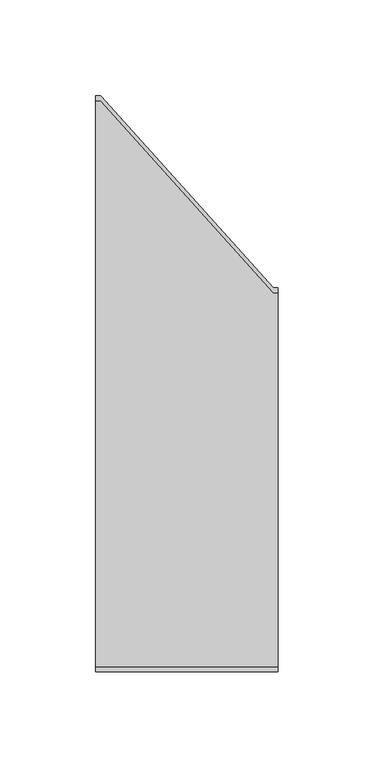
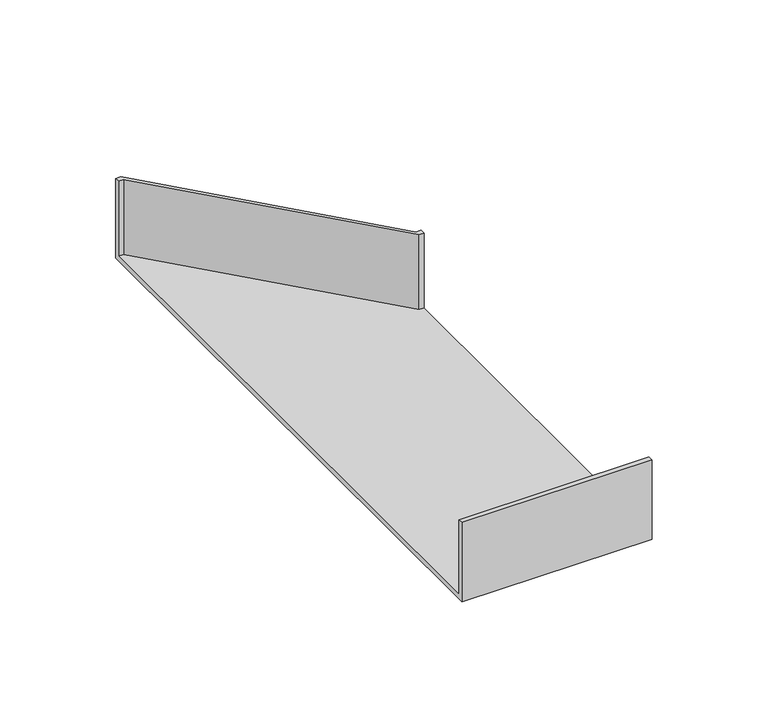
"""IFC4 building model written with IfcOpenShell, lengths in millimetres: cable carrier fitting geometry, BAKS_Reducer : RK(S/L/P)L_H42."""

from ifc_helpers import new_model, si_unit, origin, place, context, project, spatial, faceted_brep, source, transform, mapped, element, save


def cable_carrier_fitting_70c157f5(model_context):
    return source(origin(), model_context, "Body", "Brep", [
        faceted_brep([(0.0, -150.0, -21.0), (0.0, -150.0, 21.0), (0.0, -147.46, 21.0), (0.0, -147.46, -18.46), (0.0, 147.46, -18.46), (0.0, 147.46, 21.0), (0.0, 150.0, 21.0), (0.0, 150.0, -21.0), (95.0, -150.0, -21.0), (95.0, 50.0, -21.0), (95.0, 50.0, 21.0), (95.0, 47.46, 21.0), (95.0, 47.46, -18.46), (95.0, -147.46, -18.46), (95.0, -147.46, 21.0), (95.0, -150.0, 21.0), (92.5, 47.46, -18.46), (2.5, 147.46, -18.46), (2.5, 147.46, 21.0), (92.5, 47.46, 21.0), (92.5, 50.0, 21.0), (2.5, 150.0, 21.0), (2.5, 150.0, -21.0), (92.5, 50.0, -21.0)], [[[0, 1, 2, 3, 4, 5, 6, 7]], [[8, 9, 10, 11, 12, 13, 14, 15]], [[1, 0, 8, 15]], [[2, 1, 15, 14]], [[3, 2, 14, 13]], [[4, 3, 13, 12, 16, 17]], [[5, 4, 17, 18]], [[6, 5, 18, 19, 11, 10, 20, 21]], [[7, 6, 21, 22]], [[8, 0, 7, 22, 23, 9]], [[12, 11, 19, 16]], [[10, 9, 23, 20]], [[23, 22, 21, 20]], [[19, 18, 17, 16]]]),
    ])


if __name__ == "__main__":
    model = new_model("IFC4")
    model_context = context("Model", 3, world=origin())
    ifc_project = project(units=[si_unit("LENGTHUNIT", "METRE", prefix="MILLI")], contexts=[model_context])
    site = spatial("IfcSite", under=ifc_project)
    building = spatial("IfcBuilding", under=site)
    placement = place(None, origin())
    cable_carrier_fitting_shape = cable_carrier_fitting_70c157f5(model_context)
    element("IfcCableCarrierFitting", 1, ObjectType="BAKS_Reducer : RK(S/L/P)L_H42", at=placement, inside=building, context=model_context, shape_type="MappedRepresentation", body=[
        mapped(cable_carrier_fitting_shape, transform((0.0, 0.0, 0.0), x_axis=(1.0, 0.0, 0.0), y_axis=(0.0, 1.0, 0.0), z_axis=(0.0, 0.0, 1.0))),
    ])
    save(model, "model.ifc")
